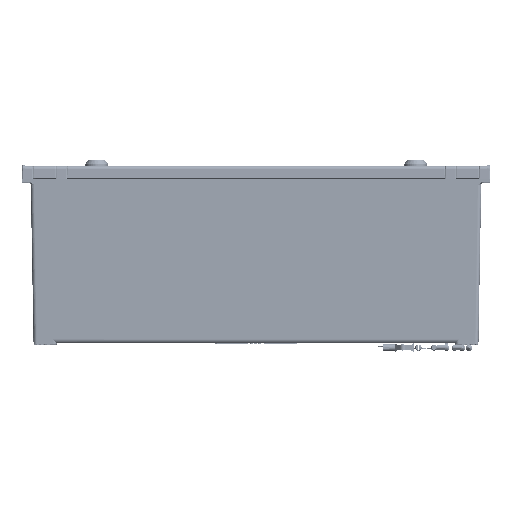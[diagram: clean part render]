
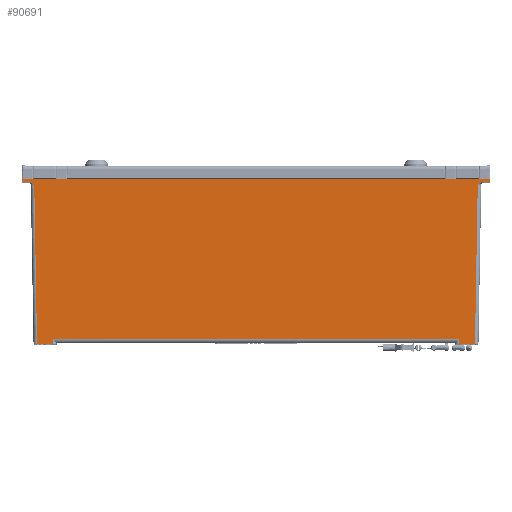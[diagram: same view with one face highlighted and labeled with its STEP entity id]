
A CAD part, top view. The second image highlights one B-rep face of the part: STEP entity #90691.
In plain terms, the highlighted planar face has unit normal (0, -0.009, 1).
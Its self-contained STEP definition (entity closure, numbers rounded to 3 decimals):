
#6328=FACE_OUTER_BOUND('',#12361,.T.);
#12361=EDGE_LOOP('',(#61802,#61803,#61804,#61805,#61806,#61807,#61808,#61809,
#61810,#61811,#61812,#61813,#61814,#61815));
#18807=B_SPLINE_CURVE_WITH_KNOTS('',3,(#140566,#140567,#140568,#140569,
#140570,#140571,#140572,#140573,#140574,#140575,#140576,#140577,#140578,
#140579,#140580,#140581,#140582,#140583),.UNSPECIFIED.,.F.,.F.,(4,2,2,2,
2,2,2,2,4),(-0.773,-0.769,-0.74,-0.717,
-0.669,-0.574,-0.373,-0.182,
0.),.UNSPECIFIED.);
#18808=B_SPLINE_CURVE_WITH_KNOTS('',3,(#140590,#140591,#140592,#140593,
#140594,#140595,#140596,#140597,#140598,#140599,#140600,#140601,#140602,
#140603,#140604,#140605,#140606,#140607),.UNSPECIFIED.,.F.,.F.,(4,2,2,2,
2,2,2,2,4),(-0.228,-0.179,-0.127,-0.062,
-0.032,-0.017,-0.009,0.,0.001),
 .UNSPECIFIED.);
#26402=LINE('',#139835,#32374);
#26414=LINE('',#140365,#32386);
#26420=LINE('',#140554,#32392);
#26421=LINE('',#140556,#32393);
#26422=LINE('',#140558,#32394);
#26423=LINE('',#140560,#32395);
#26424=LINE('',#140562,#32396);
#26425=LINE('',#140564,#32397);
#26426=LINE('',#140585,#32398);
#26427=LINE('',#140586,#32399);
#26428=LINE('',#140588,#32400);
#26429=LINE('',#140608,#32401);
#32374=VECTOR('',#108167,599.86);
#32386=VECTOR('',#108213,4.001);
#32392=VECTOR('',#108245,20.567);
#32393=VECTOR('',#108246,5.47);
#32394=VECTOR('',#108247,520.108);
#32395=VECTOR('',#108248,5.47);
#32396=VECTOR('',#108249,20.568);
#32397=VECTOR('',#108250,203.578);
#32398=VECTOR('',#108251,10.);
#32399=VECTOR('',#108252,4.001);
#32400=VECTOR('',#108253,10.);
#32401=VECTOR('',#108254,203.578);
#38522=VERTEX_POINT('',#139832);
#38523=VERTEX_POINT('',#139834);
#38539=VERTEX_POINT('',#140363);
#38544=VERTEX_POINT('',#140552);
#38545=VERTEX_POINT('',#140553);
#38546=VERTEX_POINT('',#140555);
#38547=VERTEX_POINT('',#140557);
#38548=VERTEX_POINT('',#140559);
#38549=VERTEX_POINT('',#140561);
#38550=VERTEX_POINT('',#140563);
#38551=VERTEX_POINT('',#140565);
#38552=VERTEX_POINT('',#140584);
#38553=VERTEX_POINT('',#140587);
#38554=VERTEX_POINT('',#140589);
#47288=EDGE_CURVE('',#38523,#38522,#26402,.T.);
#47314=EDGE_CURVE('',#38539,#38522,#26414,.T.);
#47326=EDGE_CURVE('',#38544,#38545,#26420,.T.);
#47327=EDGE_CURVE('',#38544,#38546,#26421,.T.);
#47328=EDGE_CURVE('',#38546,#38547,#26422,.T.);
#47329=EDGE_CURVE('',#38548,#38547,#26423,.T.);
#47330=EDGE_CURVE('',#38549,#38548,#26424,.T.);
#47331=EDGE_CURVE('',#38550,#38549,#26425,.T.);
#47332=EDGE_CURVE('',#38550,#38551,#18807,.T.);
#47333=EDGE_CURVE('',#38551,#38552,#26426,.T.);
#47334=EDGE_CURVE('',#38552,#38523,#26427,.T.);
#47335=EDGE_CURVE('',#38539,#38553,#26428,.T.);
#47336=EDGE_CURVE('',#38553,#38554,#18808,.T.);
#47337=EDGE_CURVE('',#38545,#38554,#26429,.T.);
#61802=ORIENTED_EDGE('',*,*,#47326,.F.);
#61803=ORIENTED_EDGE('',*,*,#47327,.T.);
#61804=ORIENTED_EDGE('',*,*,#47328,.T.);
#61805=ORIENTED_EDGE('',*,*,#47329,.F.);
#61806=ORIENTED_EDGE('',*,*,#47330,.F.);
#61807=ORIENTED_EDGE('',*,*,#47331,.F.);
#61808=ORIENTED_EDGE('',*,*,#47332,.T.);
#61809=ORIENTED_EDGE('',*,*,#47333,.T.);
#61810=ORIENTED_EDGE('',*,*,#47334,.T.);
#61811=ORIENTED_EDGE('',*,*,#47288,.T.);
#61812=ORIENTED_EDGE('',*,*,#47314,.F.);
#61813=ORIENTED_EDGE('',*,*,#47335,.T.);
#61814=ORIENTED_EDGE('',*,*,#47336,.T.);
#61815=ORIENTED_EDGE('',*,*,#47337,.F.);
#89044=PLANE('',#97142);
#90691=ADVANCED_FACE('',(#6328),#89044,.F.);
#97142=AXIS2_PLACEMENT_3D('',#140551,#108243,#108244);
#108167=DIRECTION('',(-1.,0.,0.));
#108213=DIRECTION('',(0.017,1.,0.009));
#108243=DIRECTION('center_axis',(0.,0.009,-1.));
#108244=DIRECTION('ref_axis',(0.,1.,0.009));
#108245=DIRECTION('',(-1.,0.,0.));
#108246=DIRECTION('',(0.017,1.,0.009));
#108247=DIRECTION('',(1.,0.,0.));
#108248=DIRECTION('',(-0.017,1.,0.009));
#108249=DIRECTION('',(-1.,0.,0.));
#108250=DIRECTION('',(-0.017,-1.,-0.009));
#108251=DIRECTION('',(1.,0.,0.));
#108252=DIRECTION('',(-0.017,1.,0.009));
#108253=DIRECTION('',(1.,0.,0.));
#108254=DIRECTION('',(-0.017,1.,0.009));
#139832=CARTESIAN_POINT('',(-299.93,210.,200.));
#139834=CARTESIAN_POINT('',(299.93,210.,200.));
#139835=CARTESIAN_POINT('',(299.93,210.,200.));
#140363=CARTESIAN_POINT('',(-300.,206.,199.965));
#140365=CARTESIAN_POINT('',(-300.,206.,199.965));
#140551=CARTESIAN_POINT('Origin',(360.,0.,198.167));
#140552=CARTESIAN_POINT('',(-260.15,-1.009,198.159));
#140553=CARTESIAN_POINT('',(-280.717,-1.009,198.159));
#140554=CARTESIAN_POINT('',(-260.15,-1.009,198.159));
#140555=CARTESIAN_POINT('',(-260.054,4.461,198.206));
#140556=CARTESIAN_POINT('',(-260.15,-1.009,198.159));
#140557=CARTESIAN_POINT('',(260.054,4.461,198.206));
#140558=CARTESIAN_POINT('',(-260.054,4.461,198.206));
#140559=CARTESIAN_POINT('',(260.149,-1.009,198.159));
#140560=CARTESIAN_POINT('',(260.149,-1.009,198.159));
#140561=CARTESIAN_POINT('',(280.717,-1.009,198.159));
#140562=CARTESIAN_POINT('',(280.717,-1.009,198.159));
#140563=CARTESIAN_POINT('',(284.269,202.531,199.935));
#140564=CARTESIAN_POINT('',(284.269,202.531,199.935));
#140565=CARTESIAN_POINT('',(290.863,206.,199.965));
#140566=CARTESIAN_POINT('Ctrl Pts',(284.269,202.531,199.935));
#140567=CARTESIAN_POINT('Ctrl Pts',(284.273,202.534,199.935));
#140568=CARTESIAN_POINT('Ctrl Pts',(284.274,202.535,199.935));
#140569=CARTESIAN_POINT('Ctrl Pts',(284.298,202.556,199.935));
#140570=CARTESIAN_POINT('Ctrl Pts',(284.375,202.623,199.936));
#140571=CARTESIAN_POINT('Ctrl Pts',(284.502,202.736,199.937));
#140572=CARTESIAN_POINT('Ctrl Pts',(284.559,202.786,199.937));
#140573=CARTESIAN_POINT('Ctrl Pts',(284.732,202.937,199.938));
#140574=CARTESIAN_POINT('Ctrl Pts',(284.848,203.038,199.939));
#140575=CARTESIAN_POINT('Ctrl Pts',(285.198,203.34,199.942));
#140576=CARTESIAN_POINT('Ctrl Pts',(285.445,203.548,199.944));
#140577=CARTESIAN_POINT('Ctrl Pts',(286.212,204.166,199.949));
#140578=CARTESIAN_POINT('Ctrl Pts',(286.76,204.568,199.953));
#140579=CARTESIAN_POINT('Ctrl Pts',(287.886,205.238,199.958));
#140580=CARTESIAN_POINT('Ctrl Pts',(288.464,205.514,199.961));
#140581=CARTESIAN_POINT('Ctrl Pts',(289.652,205.893,199.964));
#140582=CARTESIAN_POINT('Ctrl Pts',(290.255,206.,199.965));
#140583=CARTESIAN_POINT('Ctrl Pts',(290.863,206.,199.965));
#140584=CARTESIAN_POINT('',(300.,206.,199.965));
#140585=CARTESIAN_POINT('',(324.415,206.,199.965));
#140586=CARTESIAN_POINT('',(300.,206.,199.965));
#140587=CARTESIAN_POINT('',(-290.863,206.,199.965));
#140588=CARTESIAN_POINT('',(30.,206.,199.965));
#140589=CARTESIAN_POINT('',(-284.269,202.531,199.935));
#140590=CARTESIAN_POINT('Ctrl Pts',(-290.863,206.,
199.965));
#140591=CARTESIAN_POINT('Ctrl Pts',(-290.309,206.,
199.965));
#140592=CARTESIAN_POINT('Ctrl Pts',(-289.759,205.911,199.964));
#140593=CARTESIAN_POINT('Ctrl Pts',(-288.665,205.591,
199.962));
#140594=CARTESIAN_POINT('Ctrl Pts',(-288.128,205.354,
199.959));
#140595=CARTESIAN_POINT('Ctrl Pts',(-286.976,204.718,
199.954));
#140596=CARTESIAN_POINT('Ctrl Pts',(-286.376,204.291,
199.95));
#140597=CARTESIAN_POINT('Ctrl Pts',(-285.538,203.626,
199.944));
#140598=CARTESIAN_POINT('Ctrl Pts',(-285.273,203.403,
199.942));
#140599=CARTESIAN_POINT('Ctrl Pts',(-284.892,203.076,
199.94));
#140600=CARTESIAN_POINT('Ctrl Pts',(-284.767,202.968,
199.939));
#140601=CARTESIAN_POINT('Ctrl Pts',(-284.581,202.805,199.937));
#140602=CARTESIAN_POINT('Ctrl Pts',(-284.52,202.751,
199.937));
#140603=CARTESIAN_POINT('Ctrl Pts',(-284.381,202.629,
199.936));
#140604=CARTESIAN_POINT('Ctrl Pts',(-284.3,202.557,
199.935));
#140605=CARTESIAN_POINT('Ctrl Pts',(-284.274,202.535,
199.935));
#140606=CARTESIAN_POINT('Ctrl Pts',(-284.273,202.534,
199.935));
#140607=CARTESIAN_POINT('Ctrl Pts',(-284.269,202.531,199.935));
#140608=CARTESIAN_POINT('',(-280.717,-1.009,198.159));
